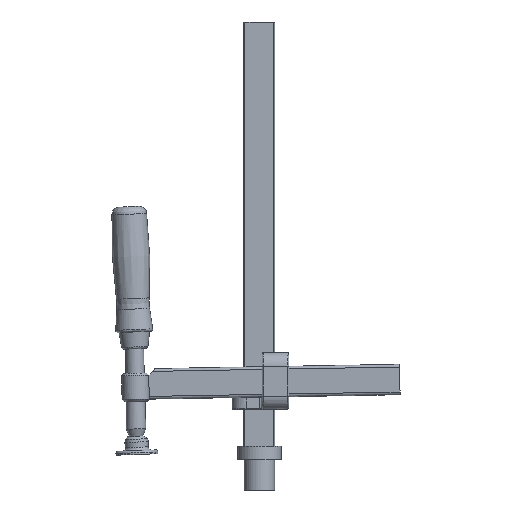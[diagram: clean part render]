
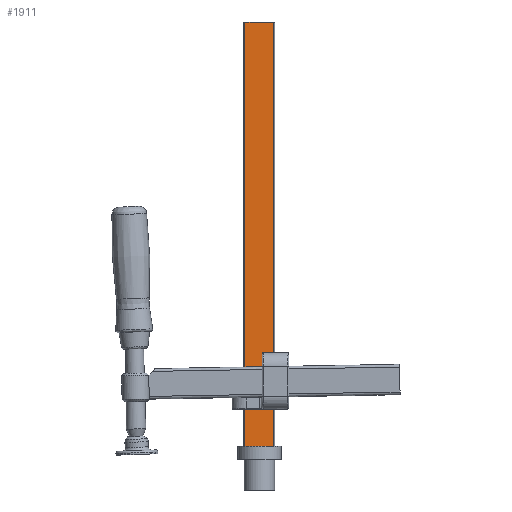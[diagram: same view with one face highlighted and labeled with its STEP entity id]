
A CAD part, left-side view. The second image highlights one B-rep face of the part: STEP entity #1911.
In plain terms, the highlighted free-form (B-spline) face has degree [1, 1] with [2, 2] control points.
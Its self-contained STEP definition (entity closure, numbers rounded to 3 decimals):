
#1606=CARTESIAN_POINT('',(-5.365,-13.266,6.));
#1607=VERTEX_POINT('',#1606);
#1614=CARTESIAN_POINT('',(-5.365,-9.603,6.));
#1615=VERTEX_POINT('',#1614);
#1616=CARTESIAN_POINT('',(-5.365,-9.603,6.));
#1617=CARTESIAN_POINT('',(-5.365,-13.266,6.));
#1618=B_SPLINE_CURVE_WITH_KNOTS('',1,(#1616,#1617),.POLYLINE_FORM.,.F.,.U.,(2,2),(0.862,1.),.UNSPECIFIED.);
#1619=EDGE_CURVE('',#1615,#1607,#1618,.T.);
#1621=CARTESIAN_POINT('',(-5.365,9.603,6.));
#1622=VERTEX_POINT('',#1621);
#1631=CARTESIAN_POINT('',(-5.365,13.266,6.));
#1632=VERTEX_POINT('',#1631);
#1633=CARTESIAN_POINT('',(-5.365,13.266,6.));
#1634=CARTESIAN_POINT('',(-5.365,9.603,6.));
#1635=B_SPLINE_CURVE_WITH_KNOTS('',1,(#1633,#1634),.POLYLINE_FORM.,.F.,.U.,(2,2),(0.,0.138),.UNSPECIFIED.);
#1636=EDGE_CURVE('',#1632,#1622,#1635,.T.);
#1868=CARTESIAN_POINT('',(-5.365,-13.266,395.));
#1869=VERTEX_POINT('',#1868);
#1876=CARTESIAN_POINT('',(-5.365,-13.266,6.));
#1877=CARTESIAN_POINT('',(-5.365,-13.266,395.));
#1878=B_SPLINE_CURVE_WITH_KNOTS('',1,(#1876,#1877),.POLYLINE_FORM.,.F.,.U.,(2,2),(0.,1.),.UNSPECIFIED.);
#1879=EDGE_CURVE('',#1607,#1869,#1878,.T.);
#1884=CARTESIAN_POINT('',(-5.365,13.266,6.));
#1885=CARTESIAN_POINT('',(-5.365,13.266,395.));
#1886=CARTESIAN_POINT('',(-5.365,-13.266,6.));
#1887=CARTESIAN_POINT('',(-5.365,-13.266,395.));
#1888=B_SPLINE_SURFACE_WITH_KNOTS('',1,1,((#1884,#1885),(#1886,#1887)),.PLANE_SURF.,.F.,.F.,.U.,(2,2),(2,2),(0.,1.),(0.,1.),.UNSPECIFIED.);
#1889=ORIENTED_EDGE('',*,*,#1636,.T.);
#1890=CARTESIAN_POINT('',(-5.365,9.603,6.));
#1891=CARTESIAN_POINT('',(-5.365,-9.603,6.));
#1892=B_SPLINE_CURVE_WITH_KNOTS('',1,(#1890,#1891),.POLYLINE_FORM.,.F.,.U.,(2,2),(0.138,0.862),.UNSPECIFIED.);
#1893=EDGE_CURVE('',#1622,#1615,#1892,.T.);
#1894=ORIENTED_EDGE('',*,*,#1893,.T.);
#1895=ORIENTED_EDGE('',*,*,#1619,.T.);
#1896=ORIENTED_EDGE('',*,*,#1879,.T.);
#1897=CARTESIAN_POINT('',(-5.365,13.266,395.));
#1898=VERTEX_POINT('',#1897);
#1899=CARTESIAN_POINT('',(-5.365,13.266,395.));
#1900=CARTESIAN_POINT('',(-5.365,-13.266,395.));
#1901=B_SPLINE_CURVE_WITH_KNOTS('',1,(#1899,#1900),.POLYLINE_FORM.,.F.,.U.,(2,2),(0.,1.),.UNSPECIFIED.);
#1902=EDGE_CURVE('',#1898,#1869,#1901,.T.);
#1903=ORIENTED_EDGE('',*,*,#1902,.F.);
#1904=CARTESIAN_POINT('',(-5.365,13.266,6.));
#1905=CARTESIAN_POINT('',(-5.365,13.266,395.));
#1906=B_SPLINE_CURVE_WITH_KNOTS('',1,(#1904,#1905),.POLYLINE_FORM.,.F.,.U.,(2,2),(0.,1.),.UNSPECIFIED.);
#1907=EDGE_CURVE('',#1632,#1898,#1906,.T.);
#1908=ORIENTED_EDGE('',*,*,#1907,.F.);
#1909=EDGE_LOOP('',(#1889,#1894,#1895,#1896,#1903,#1908));
#1910=FACE_OUTER_BOUND('',#1909,.T.);
#1911=ADVANCED_FACE('',(#1910),#1888,.T.);
